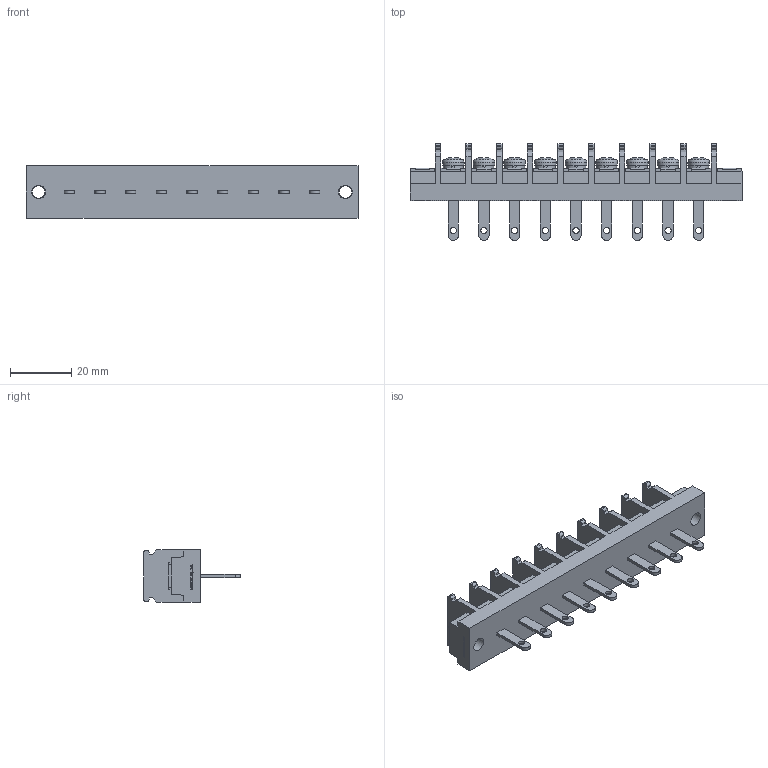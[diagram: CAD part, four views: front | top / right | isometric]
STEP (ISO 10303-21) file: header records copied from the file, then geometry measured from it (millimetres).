
FILE_DESCRIPTION(/* description */ ('Alibre Inc.'),/* implementation_level */ '2;1');
FILE_NAME(/* name */ 'export0',/* time_stamp */ '2015-10-14T19:25:02+09:00',/* author */ (''),/* organization */ (''),/* preprocessor_version */ 'ST-DEVELOPER v14',/* originating_system */ 'Alibre',/* authorisation */ '');
FILE_SCHEMA (('CONFIG_CONTROL_DESIGN'));
Length unit declared in the file: centimetre
Products named in the file (1): ID_1
Bounding box: 108.2 x 31.5 x 17 mm (x, y, z)
Volume: 20027.8 mm3; surface area: 12280.3 mm2
Topology: 1 solids, 17 shells, 1056 faces, 2895 edges, 1924 vertices
Faces by surface type: plane 778, cylinder 111, bspline 104, cone 36, torus 18, sphere 9
Full cylindrical faces by diameter (mm): 2 x9, 4 x11, 4.5 x2, 6.5 x9, 7 x9
Entity records: 32344 total; most frequent: CARTESIAN_POINT 6978, ORIENTED_EDGE 5620, DIRECTION 4148, EDGE_CURVE 2810, VECTOR 2040, LINE 2040, VERTEX_POINT 1888, AXIS2_PLACEMENT_3D 1442
